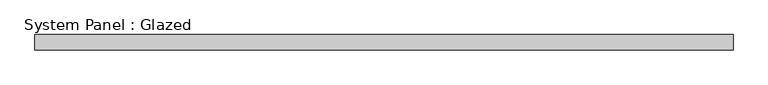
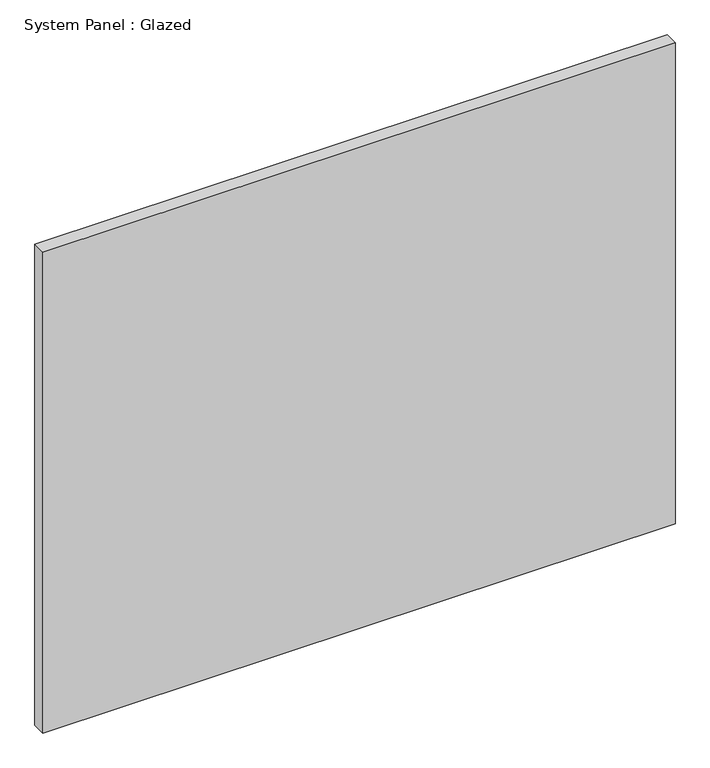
"""IFC4 building model written with IfcOpenShell, lengths in millimetres: plate geometry, System Panel : Glazed."""

from ifc_helpers import new_model, si_unit, origin, origin_with_axes, place, context, project, spatial, polyline, outline, extrude, source, transform, mapped, element, save


def system_panel_glazed_73f042a0(model_context):
    return source(origin(), model_context, "Body", "SweptSolid", [
        extrude(outline(polyline([(574.9999999, 24.5), (-574.9999999, 24.5), (-574.9999999, 49.5), (574.9999999, 49.5), (574.9999999, 24.5)])), origin_with_axes(), (0.0, 0.0, 1.0), 925.0),
    ])


if __name__ == "__main__":
    model = new_model("IFC4")
    model_context = context("Model", 3, world=origin())
    ifc_project = project(units=[si_unit("LENGTHUNIT", "METRE", prefix="MILLI")], contexts=[model_context])
    site = spatial("IfcSite", under=ifc_project)
    building = spatial("IfcBuilding", under=site)
    placement = place(None, origin())
    system_panel_glazed_shape = system_panel_glazed_73f042a0(model_context)
    element("IfcPlate", 1, ObjectType="System Panel : Glazed", at=placement, inside=building, context=model_context, shape_type="MappedRepresentation", body=[
        mapped(system_panel_glazed_shape, transform((0.0, 0.0, 0.0), x_axis=(1.0, 0.0, 0.0), y_axis=(0.0, 1.0, 0.0), z_axis=(0.0, 0.0, 1.0))),
    ])
    save(model, "model.ifc")
